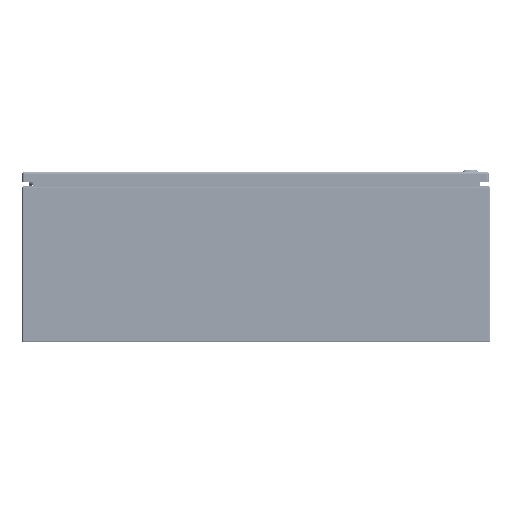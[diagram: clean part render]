
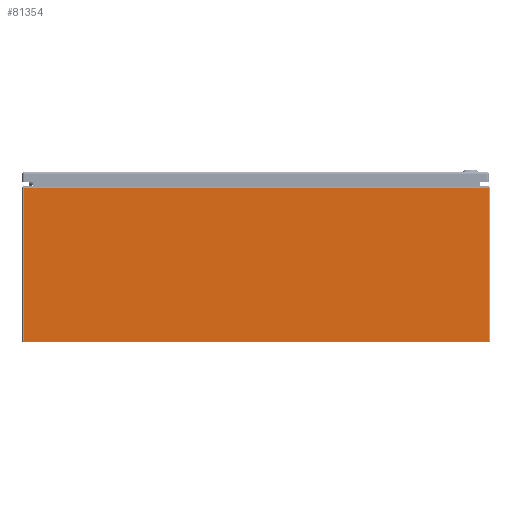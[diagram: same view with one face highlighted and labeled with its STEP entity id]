
A CAD part, front view. The second image highlights one B-rep face of the part: STEP entity #81354.
In plain terms, the highlighted planar face has unit normal (0, -1, 0).
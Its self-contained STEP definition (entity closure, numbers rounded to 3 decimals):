
#7351=LINE('',#115499,#12722);
#7352=LINE('',#115509,#12723);
#7353=LINE('',#115513,#12724);
#7354=LINE('',#115514,#12725);
#12722=VECTOR('',#95115,0.394);
#12723=VECTOR('',#95130,0.394);
#12724=VECTOR('',#95135,0.394);
#12725=VECTOR('',#95136,0.394);
#19229=FACE_OUTER_BOUND('',#24188,.T.);
#24188=EDGE_LOOP('',(#54304,#54305,#54306,#54307));
#33071=VERTEX_POINT('',#115492);
#33074=VERTEX_POINT('',#115497);
#33076=VERTEX_POINT('',#115508);
#33077=VERTEX_POINT('',#115512);
#41343=EDGE_CURVE('',#33074,#33071,#7351,.T.);
#41348=EDGE_CURVE('',#33076,#33071,#7352,.T.);
#41350=EDGE_CURVE('',#33077,#33074,#7353,.T.);
#41351=EDGE_CURVE('',#33076,#33077,#7354,.T.);
#54304=ORIENTED_EDGE('',*,*,#41343,.F.);
#54305=ORIENTED_EDGE('',*,*,#41350,.F.);
#54306=ORIENTED_EDGE('',*,*,#41351,.F.);
#54307=ORIENTED_EDGE('',*,*,#41348,.T.);
#79463=PLANE('',#87393);
#81354=ADVANCED_FACE('',(#19229),#79463,.F.);
#87393=AXIS2_PLACEMENT_3D('',#115511,#95133,#95134);
#95115=DIRECTION('',(0.,0.,1.));
#95130=DIRECTION('',(-1.,0.,0.));
#95133=DIRECTION('center_axis',(0.,1.,0.));
#95134=DIRECTION('ref_axis',(1.,0.,0.));
#95135=DIRECTION('',(-1.,0.,0.));
#95136=DIRECTION('',(0.,0.,-1.));
#115492=CARTESIAN_POINT('',(-17.901,-18.,11.901));
#115497=CARTESIAN_POINT('',(-17.901,-18.,0.099));
#115499=CARTESIAN_POINT('',(-17.901,-18.,6.009));
#115508=CARTESIAN_POINT('',(17.901,-18.,11.901));
#115509=CARTESIAN_POINT('',(-8.955,-18.,11.901));
#115511=CARTESIAN_POINT('Origin',(0.,-18.,6.009));
#115512=CARTESIAN_POINT('',(17.901,-18.,0.099));
#115513=CARTESIAN_POINT('',(18.,-18.,0.099));
#115514=CARTESIAN_POINT('',(17.901,-18.,6.009));
